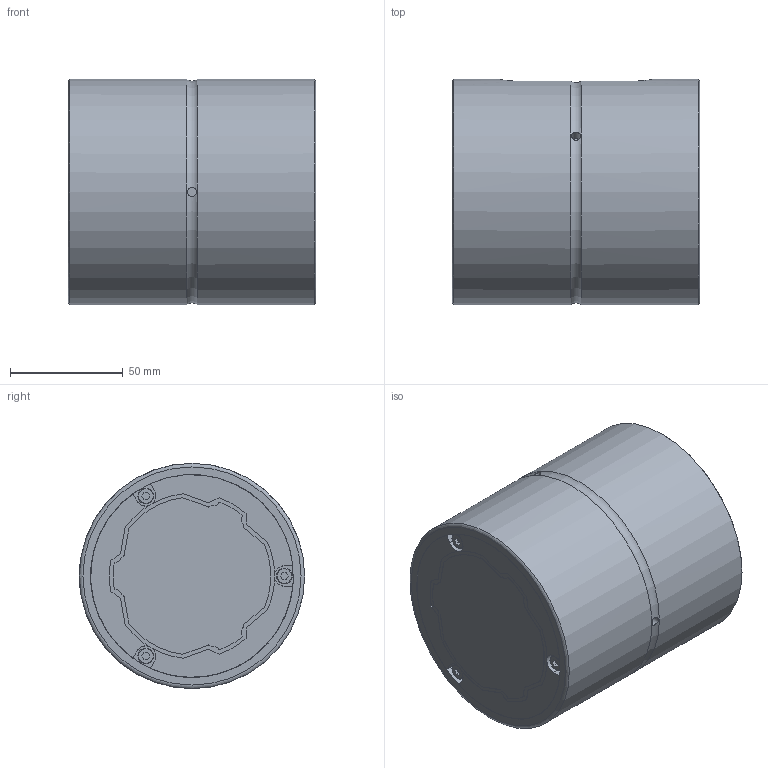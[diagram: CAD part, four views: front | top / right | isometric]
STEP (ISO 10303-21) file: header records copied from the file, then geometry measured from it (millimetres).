
FILE_DESCRIPTION(/* description */ ('STEP AP203'),/* implementation_level */ '2;1');
FILE_NAME(/* name */ 'SLS701110(00)',/* time_stamp */ '2024-05-23T11:47:24+02:00',/* author */ ('License CC BY-ND 4.0'),/* organization */ ('CADENAS'),/* preprocessor_version */ 'ST-DEVELOPER v19.3',/* originating_system */ 'PARTsolutions',/* authorisation */ ' ');
FILE_SCHEMA (('CONFIG_CONTROL_DESIGN'));
Length unit declared in the file: millimetre
Products named in the file (3): SLS701110(00); 70(X110); 70X cylinder
Assembly tree (2 placements, depth 2):
  SLS701110(00)
    70(X110)
    70X cylinder
Bounding box: 110 x 100 x 100 mm (x, y, z)
Volume: 854592.2 mm3; surface area: 102153.2 mm2
Topology: 2 solids, 2 shells, 240 faces, 652 edges, 433 vertices
Faces by surface type: plane 132, cylinder 99, torus 9
Full cylindrical faces by diameter (mm): 4 x3, 7 x6, 90 x2, 100 x2
Entity records: 7586 total; most frequent: CARTESIAN_POINT 1363, DIRECTION 1326, ORIENTED_EDGE 1248, EDGE_CURVE 624, AXIS2_PLACEMENT_3D 466, VERTEX_POINT 426, LINE 394, VECTOR 394
